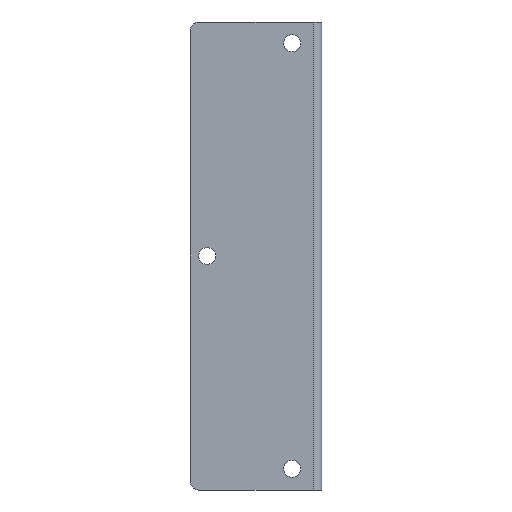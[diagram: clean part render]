
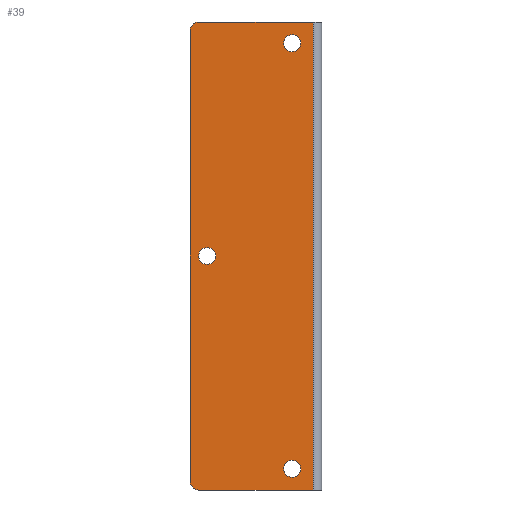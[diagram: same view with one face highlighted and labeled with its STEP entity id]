
A CAD part, front view. The second image highlights one B-rep face of the part: STEP entity #39.
In plain terms, the highlighted planar face has unit normal (0, -1, 0).
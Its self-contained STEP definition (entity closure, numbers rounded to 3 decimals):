
#1 = EDGE_LOOP ( 'NONE', ( #34, #1028 ) ) ;
#9 = EDGE_LOOP ( 'NONE', ( #692, #21, #1140, #315, #1043, #143 ) ) ;
#19 = CARTESIAN_POINT ( 'NONE',  ( -1., -1., 55. ) ) ;
#21 = ORIENTED_EDGE ( 'NONE', *, *, #161, .T. ) ;
#22 = CARTESIAN_POINT ( 'NONE',  ( -30., -1., -53. ) ) ;
#34 = ORIENTED_EDGE ( 'NONE', *, *, #870, .T. ) ;
#39 = ADVANCED_FACE ( 'NONE', ( #524, #872, #1157, #894 ), #153, .F. ) ;
#48 = AXIS2_PLACEMENT_3D ( 'NONE', #756, #1131, #1136 ) ;
#74 = CARTESIAN_POINT ( 'NONE',  ( -6., -1., 50. ) ) ;
#80 = EDGE_CURVE ( 'NONE', #825, #411, #213, .T. ) ;
#84 = DIRECTION ( 'NONE',  ( 0., 1., 0. ) ) ;
#126 = EDGE_CURVE ( 'NONE', #513, #276, #807, .T. ) ;
#131 = EDGE_CURVE ( 'NONE', #411, #942, #977, .T. ) ;
#143 = ORIENTED_EDGE ( 'NONE', *, *, #80, .T. ) ;
#153 = PLANE ( 'NONE',  #473 ) ;
#158 = CARTESIAN_POINT ( 'NONE',  ( -30., -1., 55. ) ) ;
#161 = EDGE_CURVE ( 'NONE', #942, #236, #685, .T. ) ;
#165 = DIRECTION ( 'NONE',  ( 0., 1., 0. ) ) ;
#169 = DIRECTION ( 'NONE',  ( 1., 0., 0. ) ) ;
#192 = CIRCLE ( 'NONE', #860, 2. ) ;
#194 = CIRCLE ( 'NONE', #768, 2. ) ;
#204 = VERTEX_POINT ( 'NONE', #564 ) ;
#213 = CIRCLE ( 'NONE', #665, 2. ) ;
#236 = VERTEX_POINT ( 'NONE', #803 ) ;
#237 = DIRECTION ( 'NONE',  ( 0., 0., 1. ) ) ;
#240 = ORIENTED_EDGE ( 'NONE', *, *, #748, .T. ) ;
#249 = CIRCLE ( 'NONE', #48, 2. ) ;
#250 = CARTESIAN_POINT ( 'NONE',  ( -6., -1., -50. ) ) ;
#266 = AXIS2_PLACEMENT_3D ( 'NONE', #639, #1007, #287 ) ;
#276 = VERTEX_POINT ( 'NONE', #1025 ) ;
#283 = VECTOR ( 'NONE', #984, 1000. ) ;
#287 = DIRECTION ( 'NONE',  ( 0., 0., 1. ) ) ;
#298 = CARTESIAN_POINT ( 'NONE',  ( -1., -1., -55. ) ) ;
#315 = ORIENTED_EDGE ( 'NONE', *, *, #609, .F. ) ;
#319 = DIRECTION ( 'NONE',  ( 0., 0., 1. ) ) ;
#320 = VERTEX_POINT ( 'NONE', #775 ) ;
#321 = DIRECTION ( 'NONE',  ( 0., 1., 0. ) ) ;
#322 = EDGE_CURVE ( 'NONE', #1076, #525, #571, .T. ) ;
#347 = CARTESIAN_POINT ( 'NONE',  ( -6., -1., 52. ) ) ;
#355 = VERTEX_POINT ( 'NONE', #770 ) ;
#357 = AXIS2_PLACEMENT_3D ( 'NONE', #603, #406, #682 ) ;
#406 = DIRECTION ( 'NONE',  ( 0., 1., 0. ) ) ;
#411 = VERTEX_POINT ( 'NONE', #1045 ) ;
#427 = CARTESIAN_POINT ( 'NONE',  ( -30., -1., 55. ) ) ;
#430 = CARTESIAN_POINT ( 'NONE',  ( -30., -1., 55. ) ) ;
#452 = EDGE_CURVE ( 'NONE', #355, #320, #249, .T. ) ;
#456 = DIRECTION ( 'NONE',  ( 0., 0., -1. ) ) ;
#462 = EDGE_LOOP ( 'NONE', ( #240, #508 ) ) ;
#473 = AXIS2_PLACEMENT_3D ( 'NONE', #427, #880, #600 ) ;
#503 = DIRECTION ( 'NONE',  ( 0., 0., 1. ) ) ;
#508 = ORIENTED_EDGE ( 'NONE', *, *, #452, .T. ) ;
#509 = CARTESIAN_POINT ( 'NONE',  ( -30., -1., -55. ) ) ;
#513 = VERTEX_POINT ( 'NONE', #892 ) ;
#517 = VECTOR ( 'NONE', #456, 1000. ) ;
#524 = FACE_BOUND ( 'NONE', #462, .T. ) ;
#525 = VERTEX_POINT ( 'NONE', #347 ) ;
#527 = CARTESIAN_POINT ( 'NONE',  ( -28., -1., 55. ) ) ;
#533 = EDGE_CURVE ( 'NONE', #825, #204, #796, .T. ) ;
#555 = AXIS2_PLACEMENT_3D ( 'NONE', #884, #84, #693 ) ;
#564 = CARTESIAN_POINT ( 'NONE',  ( -1., -1., 55. ) ) ;
#571 = CIRCLE ( 'NONE', #357, 2. ) ;
#600 = DIRECTION ( 'NONE',  ( 0., 0., 1. ) ) ;
#603 = CARTESIAN_POINT ( 'NONE',  ( -6., -1., 50. ) ) ;
#608 = DIRECTION ( 'NONE',  ( 0., 0., 1. ) ) ;
#609 = EDGE_CURVE ( 'NONE', #204, #759, #909, .T. ) ;
#639 = CARTESIAN_POINT ( 'NONE',  ( -28., -1., -53. ) ) ;
#647 = VECTOR ( 'NONE', #169, 1000. ) ;
#665 = AXIS2_PLACEMENT_3D ( 'NONE', #1150, #683, #319 ) ;
#680 = EDGE_LOOP ( 'NONE', ( #1046, #1035 ) ) ;
#682 = DIRECTION ( 'NONE',  ( 0., 0., 1. ) ) ;
#683 = DIRECTION ( 'NONE',  ( 0., -1., 0. ) ) ;
#685 = CIRCLE ( 'NONE', #266, 2. ) ;
#687 = LINE ( 'NONE', #509, #1015 ) ;
#692 = ORIENTED_EDGE ( 'NONE', *, *, #131, .T. ) ;
#693 = DIRECTION ( 'NONE',  ( 0., 0., 1. ) ) ;
#748 = EDGE_CURVE ( 'NONE', #320, #355, #192, .T. ) ;
#756 = CARTESIAN_POINT ( 'NONE',  ( -26., -1., 0. ) ) ;
#759 = VERTEX_POINT ( 'NONE', #298 ) ;
#768 = AXIS2_PLACEMENT_3D ( 'NONE', #74, #321, #237 ) ;
#770 = CARTESIAN_POINT ( 'NONE',  ( -26., -1., -2. ) ) ;
#775 = CARTESIAN_POINT ( 'NONE',  ( -26., -1., 2. ) ) ;
#796 = LINE ( 'NONE', #430, #647 ) ;
#803 = CARTESIAN_POINT ( 'NONE',  ( -28., -1., -55. ) ) ;
#807 = CIRCLE ( 'NONE', #957, 2. ) ;
#822 = EDGE_CURVE ( 'NONE', #525, #1076, #194, .T. ) ;
#825 = VERTEX_POINT ( 'NONE', #527 ) ;
#827 = EDGE_CURVE ( 'NONE', #236, #759, #687, .T. ) ;
#860 = AXIS2_PLACEMENT_3D ( 'NONE', #863, #1143, #503 ) ;
#863 = CARTESIAN_POINT ( 'NONE',  ( -26., -1., 0. ) ) ;
#870 = EDGE_CURVE ( 'NONE', #276, #513, #982, .T. ) ;
#872 = FACE_BOUND ( 'NONE', #680, .T. ) ;
#875 = DIRECTION ( 'NONE',  ( 1., 0., 0. ) ) ;
#880 = DIRECTION ( 'NONE',  ( 0., 1., 0. ) ) ;
#884 = CARTESIAN_POINT ( 'NONE',  ( -6., -1., -50. ) ) ;
#892 = CARTESIAN_POINT ( 'NONE',  ( -6., -1., -52. ) ) ;
#894 = FACE_OUTER_BOUND ( 'NONE', #9, .T. ) ;
#909 = LINE ( 'NONE', #19, #517 ) ;
#942 = VERTEX_POINT ( 'NONE', #22 ) ;
#957 = AXIS2_PLACEMENT_3D ( 'NONE', #250, #165, #608 ) ;
#977 = LINE ( 'NONE', #158, #283 ) ;
#982 = CIRCLE ( 'NONE', #555, 2. ) ;
#984 = DIRECTION ( 'NONE',  ( 0., 0., -1. ) ) ;
#1007 = DIRECTION ( 'NONE',  ( 0., -1., 0. ) ) ;
#1015 = VECTOR ( 'NONE', #875, 1000. ) ;
#1025 = CARTESIAN_POINT ( 'NONE',  ( -6., -1., -48. ) ) ;
#1028 = ORIENTED_EDGE ( 'NONE', *, *, #126, .T. ) ;
#1035 = ORIENTED_EDGE ( 'NONE', *, *, #322, .T. ) ;
#1043 = ORIENTED_EDGE ( 'NONE', *, *, #533, .F. ) ;
#1045 = CARTESIAN_POINT ( 'NONE',  ( -30., -1., 53. ) ) ;
#1046 = ORIENTED_EDGE ( 'NONE', *, *, #822, .T. ) ;
#1076 = VERTEX_POINT ( 'NONE', #1109 ) ;
#1109 = CARTESIAN_POINT ( 'NONE',  ( -6., -1., 48. ) ) ;
#1131 = DIRECTION ( 'NONE',  ( 0., 1., 0. ) ) ;
#1136 = DIRECTION ( 'NONE',  ( 0., 0., 1. ) ) ;
#1140 = ORIENTED_EDGE ( 'NONE', *, *, #827, .T. ) ;
#1143 = DIRECTION ( 'NONE',  ( 0., 1., 0. ) ) ;
#1150 = CARTESIAN_POINT ( 'NONE',  ( -28., -1., 53. ) ) ;
#1157 = FACE_BOUND ( 'NONE', #1, .T. ) ;
